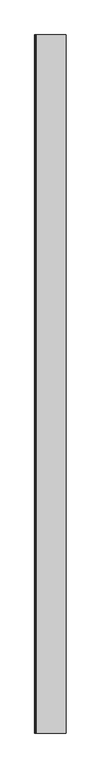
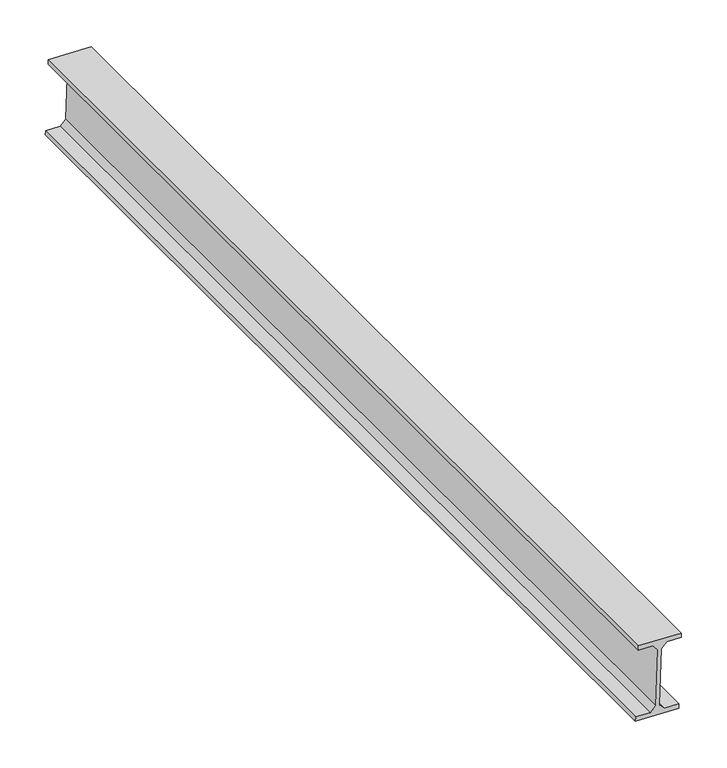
"""IFC4 building model written with IfcOpenShell, lengths in millimetres: beam geometry, Panne 186535 : Panne 186535."""

from ifc_helpers import new_model, si_unit, frame, origin, place, context, project, spatial, polyline, outline, extrude, source, transform, mapped, element, save


def beam_f69429bc(model_context):
    return source(origin(), model_context, "Body", "SweptSolid", [
        extrude(outline(polyline([(7766.563089, 7632.4831716), (7768.486911, 7577.5168282), (7762.7903991, 7577.3174502), (7762.1450442, 7595.75616), (7754.9044777, 7602.5070263), (7680.3501283, 7599.8976241), (7673.5992619, 7592.6570576), (7674.2446167, 7574.2183479), (7668.5481048, 7574.0189699), (7666.6242828, 7628.9853134), (7672.3207947, 7629.1846913), (7672.9661496, 7610.7459815), (7680.2067161, 7603.9951152), (7754.7610655, 7606.6045174), (7761.5119319, 7613.8450839), (7760.866577, 7632.2837937), (7766.563089, 7632.4831716)])), frame((0.0, -39755.0, 0.0), z_axis=(0.0, 1.0, 0.0), x_axis=(0.0, 0.0, 1.0)), (0.0, 0.0, 1.0), 1299.45),
    ])


if __name__ == "__main__":
    model = new_model("IFC4")
    model_context = context("Model", 3, world=origin())
    ifc_project = project(units=[si_unit("LENGTHUNIT", "METRE", prefix="MILLI")], contexts=[model_context])
    site = spatial("IfcSite", under=ifc_project)
    building = spatial("IfcBuilding", under=site)
    placement = place(None, origin())
    beam_shape = beam_f69429bc(model_context)
    element("IfcBeam", 1, ObjectType="Panne 186535 : Panne 186535", at=placement, inside=building, context=model_context, shape_type="MappedRepresentation", body=[
        mapped(beam_shape, transform((0.0, 0.0, 0.0), x_axis=(1.0, 0.0, 0.0), y_axis=(0.0, 1.0, 0.0), z_axis=(0.0, 0.0, 1.0))),
    ])
    save(model, "model.ifc")
